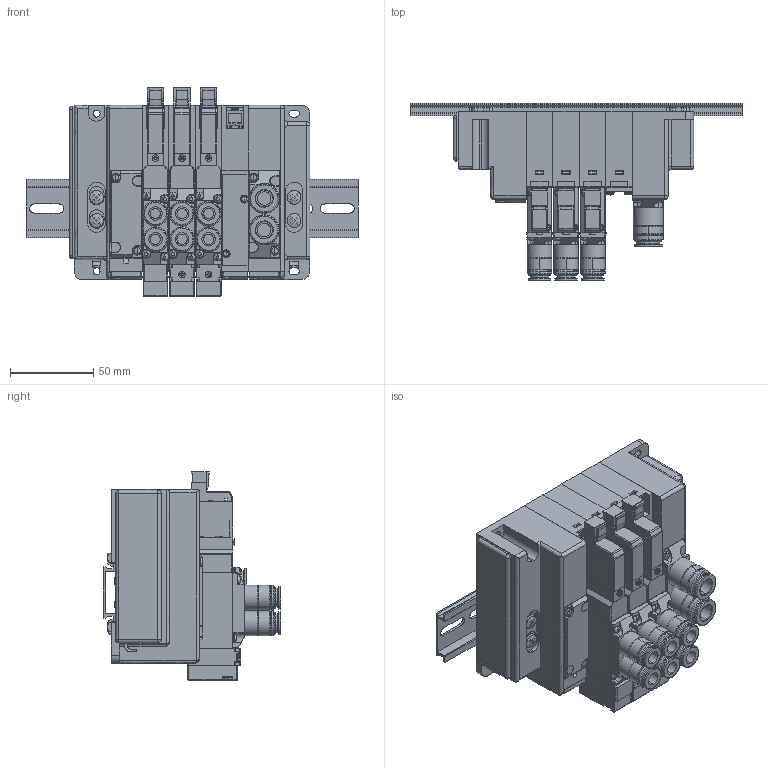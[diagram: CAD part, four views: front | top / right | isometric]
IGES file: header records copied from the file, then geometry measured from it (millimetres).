
Start section: ------------------------------------------------------------------------
Global section: file name: D:\ICADMX\tmp\trans3d_spg\CVICAD02.5220.F15M4XN-JR-DR_16567.igs; native system: spGate; preprocessor: ver12.6.6; author: Unknown; organization: Unknown; date: 210712.184754; units: millimetre
Bounding box: 200 x 107 x 125.5 mm (x, y, z)
Volume: 814946.5 mm3; surface area: 226985.3 mm2
Topology: 38 solids, 38 shells, 3582 faces, 9339 edges, 6012 vertices
Faces by surface type: bspline 3582
